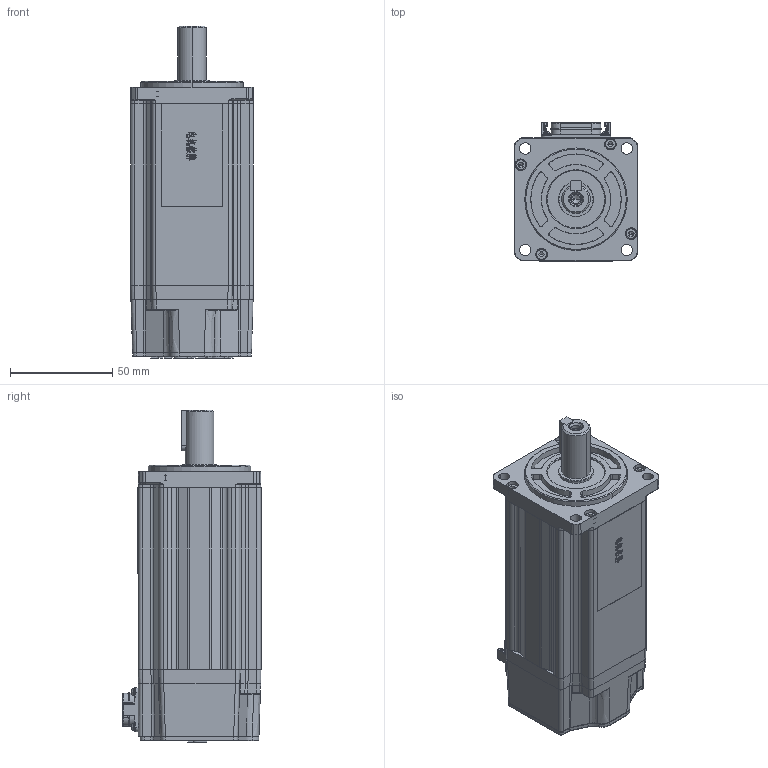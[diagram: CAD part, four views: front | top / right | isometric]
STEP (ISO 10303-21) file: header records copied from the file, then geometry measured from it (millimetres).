
FILE_DESCRIPTION (( 'STEP AP203' ), '1' );
FILE_NAME ('MC20-060-3L30-N401-1¡õCK-NNNN.STEP', '2026-04-19T15:10:42', ( '' ), ( '' ), 'SwSTEP 2.0', 'SolidWorks 2014', '' );
FILE_SCHEMA (( 'CONFIG_CONTROL_DESIGN' ));
Products named in the file (1): MC20-060-3L30-N401-1¡õCK-NNNN
Bounding box: 60 x 67.55 x 162 mm (x, y, z)
Volume: 427310.9 mm3; surface area: 76976.3 mm2
Topology: 11 solids, 15 shells, 2361 faces, 6352 edges, 4095 vertices
Faces by surface type: plane 1114, cylinder 556, bspline 484, cone 171, torus 36
Entity records: 96740 total; most frequent: CARTESIAN_POINT 41848, ORIENTED_EDGE 12578, DIRECTION 9476, EDGE_CURVE 6289, VERTEX_POINT 4095, VECTOR 3704, LINE 3704, AXIS2_PLACEMENT_3D 2886
